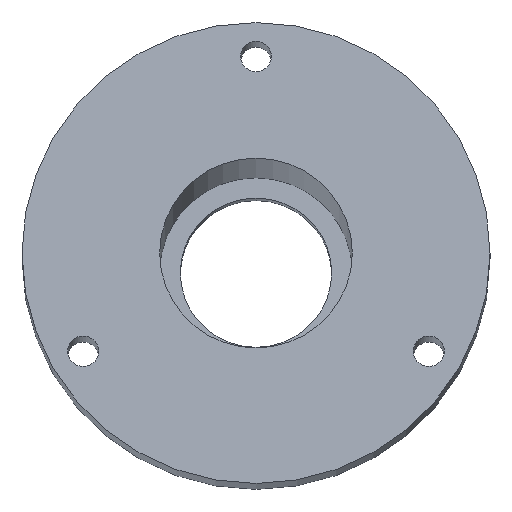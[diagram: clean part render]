
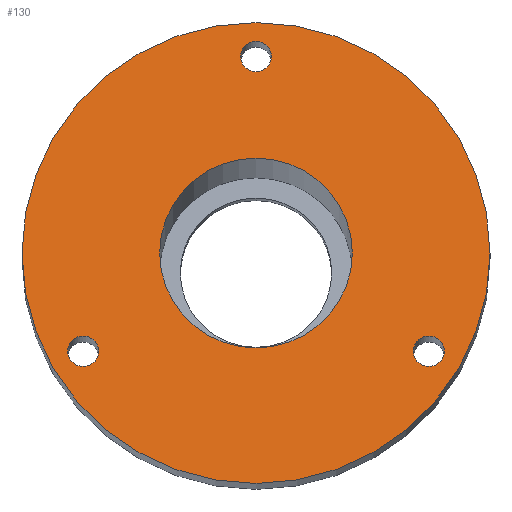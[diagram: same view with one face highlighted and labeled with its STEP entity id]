
A CAD part, front view. The second image highlights one B-rep face of the part: STEP entity #130.
In plain terms, the highlighted planar face has unit normal (0, -0.985, 0.174).
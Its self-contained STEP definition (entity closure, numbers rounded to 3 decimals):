
#70=CARTESIAN_POINT('',(-493.5,225.687,1689.689));
#71=DIRECTION('',(0.0,-0.985,0.174));
#72=DIRECTION('',(1.0,0.0,0.0));
#73=AXIS2_PLACEMENT_3D('',#70,#71,#72);
#74=PLANE('',#73);
#75=CARTESIAN_POINT('',(-459.5,225.687,1689.689));
#76=VERTEX_POINT('',#75);
#77=CARTESIAN_POINT('',(-493.5,225.687,1689.689));
#78=DIRECTION('',(0.0,-0.985,0.174));
#79=DIRECTION('',(1.0,0.0,0.0));
#80=AXIS2_PLACEMENT_3D('',#77,#78,#79);
#81=CIRCLE('',#80,34.0);
#82=EDGE_CURVE('',#76,#76,#81,.T.);
#83=ORIENTED_EDGE('',*,*,#82,.T.);
#84=EDGE_LOOP('',(#83));
#85=FACE_OUTER_BOUND('',#84,.T.);
#86=CARTESIAN_POINT('',(-479.5,225.687,1689.689));
#87=VERTEX_POINT('',#86);
#88=CARTESIAN_POINT('',(-493.5,225.687,1689.689));
#89=DIRECTION('',(0.0,-0.985,0.174));
#90=DIRECTION('',(1.0,0.0,0.0));
#91=AXIS2_PLACEMENT_3D('',#88,#89,#90);
#92=CIRCLE('',#91,14.0);
#93=EDGE_CURVE('',#87,#87,#92,.T.);
#94=ORIENTED_EDGE('',*,*,#93,.F.);
#95=EDGE_LOOP('',(#94));
#96=FACE_BOUND('',#95,.T.);
#97=CARTESIAN_POINT('',(-491.25,230.723,1718.248));
#98=VERTEX_POINT('',#97);
#99=CARTESIAN_POINT('',(-493.5,230.723,1718.248));
#100=DIRECTION('',(0.0,0.985,-0.174));
#101=DIRECTION('',(1.0,0.0,0.0));
#102=AXIS2_PLACEMENT_3D('',#99,#100,#101);
#103=CIRCLE('',#102,2.25);
#104=EDGE_CURVE('',#98,#98,#103,.T.);
#105=ORIENTED_EDGE('',*,*,#104,.T.);
#106=EDGE_LOOP('',(#105));
#107=FACE_BOUND('',#106,.T.);
#108=CARTESIAN_POINT('',(-516.365,223.169,1675.409));
#109=VERTEX_POINT('',#108);
#110=CARTESIAN_POINT('',(-518.615,223.169,1675.409));
#111=DIRECTION('',(0.0,0.985,-0.174));
#112=DIRECTION('',(1.0,0.0,0.0));
#113=AXIS2_PLACEMENT_3D('',#110,#111,#112);
#114=CIRCLE('',#113,2.25);
#115=EDGE_CURVE('',#109,#109,#114,.T.);
#116=ORIENTED_EDGE('',*,*,#115,.T.);
#117=EDGE_LOOP('',(#116));
#118=FACE_BOUND('',#117,.T.);
#119=CARTESIAN_POINT('',(-466.135,223.169,1675.409));
#120=VERTEX_POINT('',#119);
#121=CARTESIAN_POINT('',(-468.385,223.169,1675.409));
#122=DIRECTION('',(0.0,0.985,-0.174));
#123=DIRECTION('',(1.0,0.0,0.0));
#124=AXIS2_PLACEMENT_3D('',#121,#122,#123);
#125=CIRCLE('',#124,2.25);
#126=EDGE_CURVE('',#120,#120,#125,.T.);
#127=ORIENTED_EDGE('',*,*,#126,.T.);
#128=EDGE_LOOP('',(#127));
#129=FACE_BOUND('',#128,.T.);
#130=ADVANCED_FACE('',(#85,#96,#107,#118,#129),#74,.T.);
